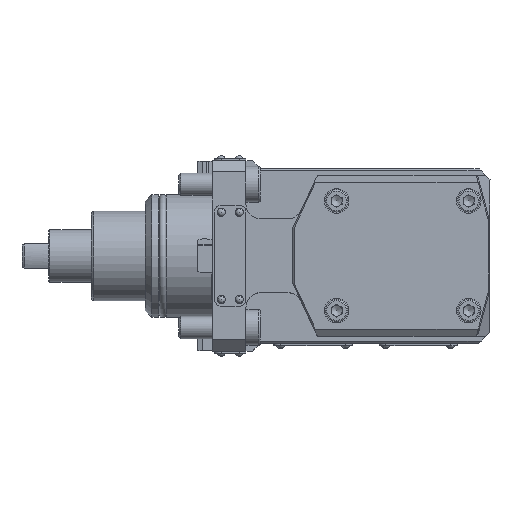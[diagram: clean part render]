
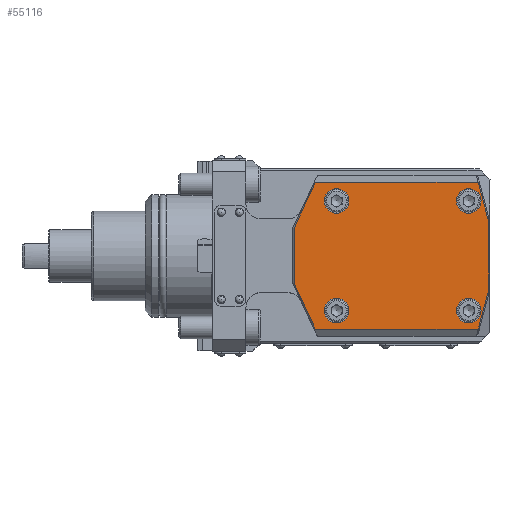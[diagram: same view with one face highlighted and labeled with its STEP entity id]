
A CAD part, top view. The second image highlights one B-rep face of the part: STEP entity #55116.
In plain terms, the highlighted planar face has unit normal (0, 0, 1).
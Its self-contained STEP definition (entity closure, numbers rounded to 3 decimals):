
#21816=CIRCLE('',#53085,5.5);
#21817=CIRCLE('',#53086,5.5);
#21818=CIRCLE('',#53087,5.5);
#21819=CIRCLE('',#53088,5.5);
#23681=ORIENTED_EDGE('',*,*,#31495,.F.);
#23682=ORIENTED_EDGE('',*,*,#31499,.F.);
#23683=ORIENTED_EDGE('',*,*,#31501,.F.);
#23684=ORIENTED_EDGE('',*,*,#31503,.F.);
#23685=ORIENTED_EDGE('',*,*,#31504,.F.);
#23686=ORIENTED_EDGE('',*,*,#31508,.F.);
#23687=ORIENTED_EDGE('',*,*,#31509,.F.);
#23688=ORIENTED_EDGE('',*,*,#31510,.F.);
#23689=ORIENTED_EDGE('',*,*,#31511,.F.);
#23690=ORIENTED_EDGE('',*,*,#31512,.F.);
#23691=ORIENTED_EDGE('',*,*,#31513,.F.);
#23692=ORIENTED_EDGE('',*,*,#31514,.F.);
#27105=VECTOR('',#36627,1.);
#27109=VECTOR('',#36633,1.);
#27111=VECTOR('',#36637,1.);
#27113=VECTOR('',#36641,1.);
#27114=VECTOR('',#36644,1.);
#27118=VECTOR('',#36650,1.);
#27119=VECTOR('',#36651,1.);
#27120=VECTOR('',#36652,1.);
#28422=LINE('',#47176,#27105);
#28426=LINE('',#47183,#27109);
#28428=LINE('',#47187,#27111);
#28430=LINE('',#47191,#27113);
#28431=LINE('',#47194,#27114);
#28435=LINE('',#47202,#27118);
#28436=LINE('',#47204,#27119);
#28437=LINE('',#47205,#27120);
#29836=VERTEX_POINT('',#47173);
#29837=VERTEX_POINT('',#47175);
#29839=VERTEX_POINT('',#47181);
#29840=VERTEX_POINT('',#47185);
#29841=VERTEX_POINT('',#47189);
#29842=VERTEX_POINT('',#47193);
#29845=VERTEX_POINT('',#47201);
#29846=VERTEX_POINT('',#47203);
#29847=VERTEX_POINT('',#47206);
#29848=VERTEX_POINT('',#47208);
#29849=VERTEX_POINT('',#47210);
#29850=VERTEX_POINT('',#47212);
#31495=EDGE_CURVE('',#29836,#29837,#28422,.T.);
#31499=EDGE_CURVE('',#29839,#29836,#28426,.T.);
#31501=EDGE_CURVE('',#29840,#29839,#28428,.T.);
#31503=EDGE_CURVE('',#29841,#29840,#28430,.T.);
#31504=EDGE_CURVE('',#29842,#29841,#28431,.T.);
#31508=EDGE_CURVE('',#29845,#29842,#28435,.T.);
#31509=EDGE_CURVE('',#29846,#29845,#28436,.T.);
#31510=EDGE_CURVE('',#29837,#29846,#28437,.T.);
#31511=EDGE_CURVE('',#29847,#29847,#21816,.T.);
#31512=EDGE_CURVE('',#29848,#29848,#21817,.T.);
#31513=EDGE_CURVE('',#29849,#29849,#21818,.T.);
#31514=EDGE_CURVE('',#29850,#29850,#21819,.T.);
#33241=EDGE_LOOP('',(#23681,#23682,#23683,#23684,#23685,#23686,#23687,#23688));
#33242=EDGE_LOOP('',(#23689));
#33243=EDGE_LOOP('',(#23690));
#33244=EDGE_LOOP('',(#23691));
#33245=EDGE_LOOP('',(#23692));
#34484=FACE_BOUND('',#33241,.T.);
#34485=FACE_BOUND('',#33242,.T.);
#34486=FACE_BOUND('',#33243,.T.);
#34487=FACE_BOUND('',#33244,.T.);
#34488=FACE_BOUND('',#33245,.T.);
#36627=DIRECTION('',(72.709,0.,0.));
#36633=DIRECTION('',(9.524,20.425,0.));
#36637=DIRECTION('',(0.,24.599,0.));
#36641=DIRECTION('',(-9.524,20.425,0.));
#36644=DIRECTION('',(-72.709,0.,0.));
#36648=DIRECTION('',(0.,0.,1.));
#36649=DIRECTION('',(0.,-1.,0.));
#36650=DIRECTION('',(-4.767,-17.79,0.));
#36651=DIRECTION('',(0.,-29.868,0.));
#36652=DIRECTION('',(4.767,-17.79,0.));
#36653=DIRECTION('',(0.,0.,1.));
#36654=DIRECTION('',(5.5,0.,0.));
#36655=DIRECTION('',(0.,0.,1.));
#36656=DIRECTION('',(5.5,0.,0.));
#36657=DIRECTION('',(0.,0.,1.));
#36658=DIRECTION('',(5.5,0.,0.));
#36659=DIRECTION('',(0.,0.,1.));
#36660=DIRECTION('',(5.5,0.,0.));
#47173=CARTESIAN_POINT('',(46.024,32.724,61.));
#47175=CARTESIAN_POINT('',(118.733,32.724,61.));
#47176=CARTESIAN_POINT('',(46.024,32.724,61.));
#47181=CARTESIAN_POINT('',(36.5,12.3,61.));
#47183=CARTESIAN_POINT('',(36.5,12.3,61.));
#47185=CARTESIAN_POINT('',(36.5,-12.3,61.));
#47187=CARTESIAN_POINT('',(36.5,-12.3,61.));
#47189=CARTESIAN_POINT('',(46.024,-32.724,61.));
#47191=CARTESIAN_POINT('',(46.024,-32.724,61.));
#47193=CARTESIAN_POINT('',(118.733,-32.724,61.));
#47194=CARTESIAN_POINT('',(118.733,-32.724,61.));
#47200=CARTESIAN_POINT('',(124.,-15.,61.));
#47201=CARTESIAN_POINT('',(123.5,-14.934,61.));
#47202=CARTESIAN_POINT('',(123.5,-14.934,61.));
#47203=CARTESIAN_POINT('',(123.5,14.934,61.));
#47204=CARTESIAN_POINT('',(123.5,14.934,61.));
#47205=CARTESIAN_POINT('',(118.733,32.724,61.));
#47206=CARTESIAN_POINT('',(61.,-24.5,61.));
#47207=CARTESIAN_POINT('',(55.5,-24.5,61.));
#47208=CARTESIAN_POINT('',(120.,-24.5,61.));
#47209=CARTESIAN_POINT('',(114.5,-24.5,61.));
#47210=CARTESIAN_POINT('',(61.,24.5,61.));
#47211=CARTESIAN_POINT('',(55.5,24.5,61.));
#47212=CARTESIAN_POINT('',(120.,24.5,61.));
#47213=CARTESIAN_POINT('',(114.5,24.5,61.));
#53084=AXIS2_PLACEMENT_3D('',#47200,#36648,#36649);
#53085=AXIS2_PLACEMENT_3D('',#47207,#36653,#36654);
#53086=AXIS2_PLACEMENT_3D('',#47209,#36655,#36656);
#53087=AXIS2_PLACEMENT_3D('',#47211,#36657,#36658);
#53088=AXIS2_PLACEMENT_3D('',#47213,#36659,#36660);
#54383=PLANE('',#53084);
#55116=ADVANCED_FACE('',(#34484,#34485,#34486,#34487,#34488),#54383,.T.);
